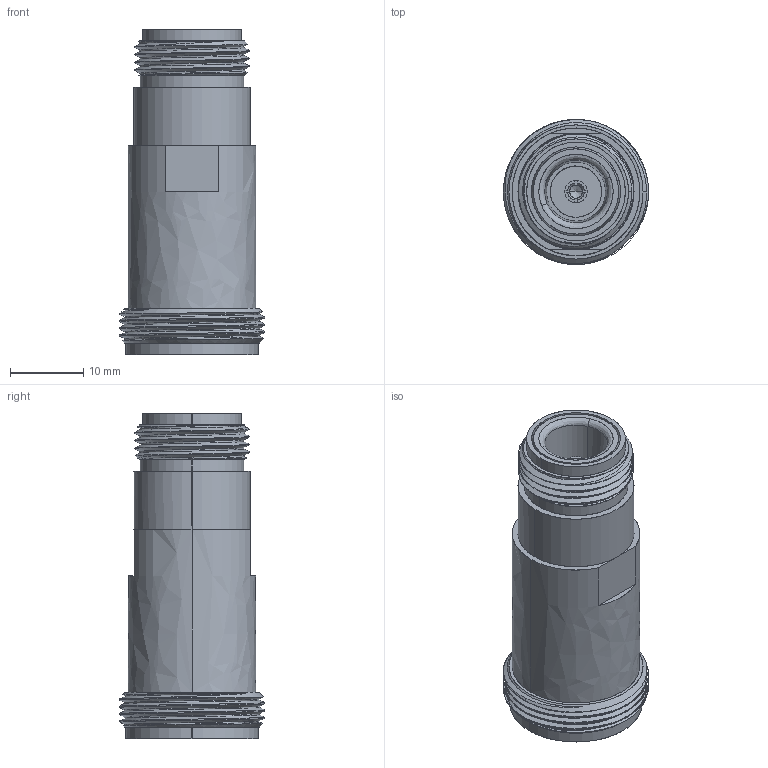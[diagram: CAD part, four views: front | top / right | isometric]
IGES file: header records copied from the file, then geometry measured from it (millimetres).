
Start section: SolidWorks IGES file using analytic representation for surfaces
Global section: file name: E:\Solidworks\Sketches\Shannon\1_MODELS_WEB\4.1_9.5\2228000Q001-053\2228000Q001-053igs.IGS; native system: SolidWorks 2014; preprocessor: SolidWorks 2014; author: sculpepper; date: 151123.082452; units: inch
Bounding box: 19.86 x 19.86 x 44.45 mm (x, y, z)
Surface area: 4340.4 mm2 (no closed solid volume)
Topology: 0 solids, 0 shells, 140 faces, 2671 edges, 3025 vertices
Faces by surface type: revolution 77, bspline 63
